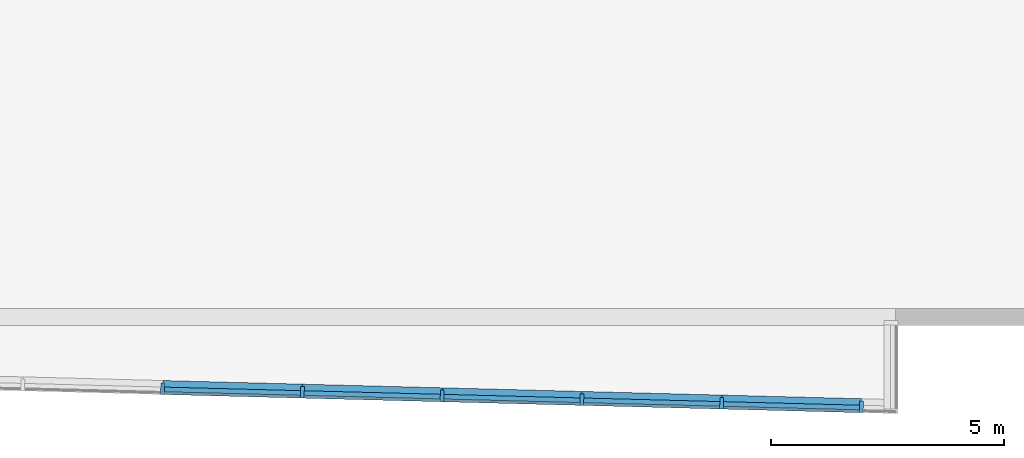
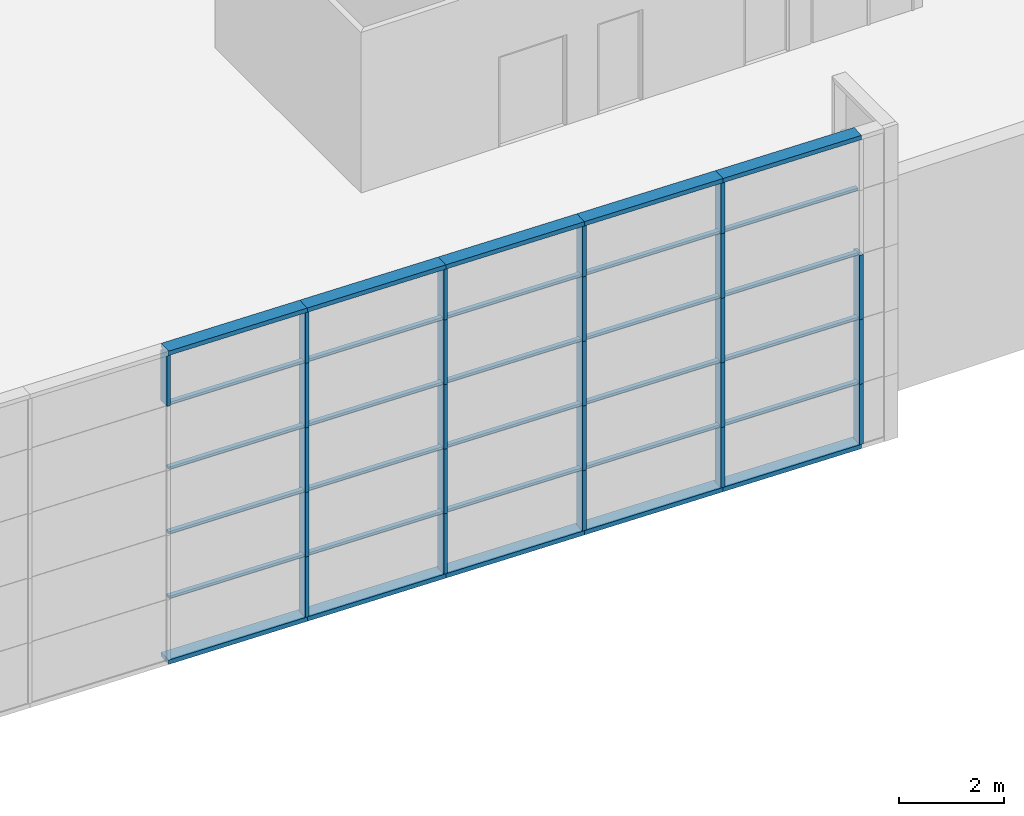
# One storey, part 6 of 27: 54 members, 1 element without a shape of its own.
"""IFC2X3 building model written with IfcOpenShell, lengths in metres."""

from ifc_helpers import new_model, entity, si_unit, converted_unit, money_unit, direction, frame, origin_with_axes, place, context, subcontext, project, spatial, polyline, outline, extrude, material, type_object, element, aggregate, save


model = new_model("IFC2X3")

# Units and contexts
model_context = context("Model", 3, precision=1e-05, world=origin_with_axes(), true_north=direction((0.0, 1.0)))
body_context = subcontext(model_context, "Body", "Model", "MODEL_VIEW")
ifc_project = project(units=[si_unit("LENGTHUNIT", "METRE"), si_unit("AREAUNIT", "SQUARE_METRE"), si_unit("VOLUMEUNIT", "CUBIC_METRE"), converted_unit("PLANEANGLEUNIT", "DEGREE", entity("IfcPlaneAngleMeasure", 0.0174532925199), si_unit("PLANEANGLEUNIT", "RADIAN"), dimensions=[0, 0, 0, 0, 0, 0, 0]), si_unit("SOLIDANGLEUNIT", "STERADIAN"), money_unit("EUR"), converted_unit("TIMEUNIT", "Year", entity("IfcTimeMeasure", 31556926.0), si_unit("TIMEUNIT", "SECOND"), dimensions=[0, 0, 0, 0, 0, 0, 0]), si_unit("MASSUNIT", "GRAM"), si_unit("THERMODYNAMICTEMPERATUREUNIT", "DEGREE_CELSIUS"), si_unit("LUMINOUSINTENSITYUNIT", "LUMEN")], contexts=[model_context])

# Site, building, storey
site_placement = place(None, origin_with_axes())
site = spatial("IfcSite", under=ifc_project, at=site_placement, Name="Undefined", CompositionType="ELEMENT")
building_placement = place(site_placement, origin_with_axes())
building = spatial("IfcBuilding", under=site, at=building_placement, Name="Undefined", CompositionType="ELEMENT")
storey_placement = place(building_placement, frame((0.0, 0.0, 5.4), z_axis=(0.0, 0.0, 1.0), x_axis=(1.0, 0.0, 0.0)))
storey = spatial("IfcBuildingStorey", under=building, at=storey_placement, Name="R+1", CompositionType="ELEMENT", Elevation=5.4)

# Curtain wall, members
curtain_wall_type = type_object("IfcCurtainWallType", Name="Type de mur-rideau", PredefinedType="NOTDEFINED")
curtain_wall_placement = place(storey_placement, frame((10.9994920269, -1.13484133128, -0.55), z_axis=(0.0, 0.0, 1.0), x_axis=(1.0, 0.0, 0.0)))
curtain_wall = element("IfcCurtainWall", 1, at=curtain_wall_placement, inside=storey, type_object=curtain_wall_type, Name="CurtainWall_01", ObjectType="CURTAIN WALL")
ifc_material = material(Name="25 % 359672764")
member_type_1 = type_object("IfcMemberType", Name="Cadre 100 x 300", PredefinedType="NOTDEFINED")
member_1_placement = place(curtain_wall_placement, frame((25.4913649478, -0.663560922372, 0.0), z_axis=(0.999661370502, -0.0260219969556, 0.0), x_axis=(0.0, 0.0, 1.0)))
member_1 = element("IfcMember", 2, at=member_1_placement, type_object=member_type_1, material=ifc_material, Name="Frame-Bnd-565", context=body_context, shape_type="SweptSolid", body=[
    extrude(outline(polyline([(-0.25, -0.1), (0.05, -0.1), (0.05, 0.0), (-0.25, 0.0), (-0.25, -0.1)])), frame((0.0, 0.0, 0.0), z_axis=(0.0, 0.0, 1.0), x_axis=(0.0, 1.0, 0.0)), (0.0, 0.0, 1.0), 3.0),
])
member_2_placement = place(curtain_wall_placement, frame((28.4903490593, -0.741626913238, 0.0), z_axis=(0.999661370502, -0.0260219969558, 0.0), x_axis=(0.0, 0.0, 1.0)))
member_2 = element("IfcMember", 3, at=member_2_placement, type_object=member_type_1, material=ifc_material, Name="Frame-Bnd-565", context=body_context, shape_type="SweptSolid", body=[
    extrude(outline(polyline([(-0.25, -0.1), (0.05, -0.1), (0.05, 0.0), (-0.25, 0.0), (-0.25, -0.1)])), frame((0.0, 0.0, 0.0), z_axis=(0.0, 0.0, 1.0), x_axis=(0.0, 1.0, 0.0)), (0.0, 0.0, 1.0), 3.0),
])
member_3_placement = place(curtain_wall_placement, frame((31.4893331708, -0.819692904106, 0.0), z_axis=(0.999661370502, -0.0260219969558, 0.0), x_axis=(0.0, 0.0, 1.0)))
member_3 = element("IfcMember", 4, at=member_3_placement, type_object=member_type_1, material=ifc_material, Name="Frame-Bnd-565", context=body_context, shape_type="SweptSolid", body=[
    extrude(outline(polyline([(-0.25, -0.1), (0.05, -0.1), (0.05, 0.0), (-0.25, 0.0), (-0.25, -0.1)])), frame((0.0, 0.0, 0.0), z_axis=(0.0, 0.0, 1.0), x_axis=(0.0, 1.0, 0.0)), (0.0, 0.0, 1.0), 3.0),
])
member_4_placement = place(curtain_wall_placement, frame((34.4883172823, -0.897758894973, 0.0), z_axis=(0.999661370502, -0.0260219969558, 0.0), x_axis=(0.0, 0.0, 1.0)))
member_4 = element("IfcMember", 5, at=member_4_placement, type_object=member_type_1, material=ifc_material, Name="Frame-Bnd-565", context=body_context, shape_type="SweptSolid", body=[
    extrude(outline(polyline([(-0.25, -0.1), (0.05, -0.1), (0.05, 0.0), (-0.25, 0.0), (-0.25, -0.1)])), frame((0.0, 0.0, 0.0), z_axis=(0.0, 0.0, 1.0), x_axis=(0.0, 1.0, 0.0)), (0.0, 0.0, 1.0), 3.0),
])
member_5_placement = place(curtain_wall_placement, frame((37.4873013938, -0.97582488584, 0.0), z_axis=(0.999661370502, -0.0260219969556, 0.0), x_axis=(0.0, 0.0, 1.0)))
member_5 = element("IfcMember", 6, at=member_5_placement, type_object=member_type_1, material=ifc_material, Name="Frame-Bnd-565", context=body_context, shape_type="SweptSolid", body=[
    extrude(outline(polyline([(-0.25, -0.1), (0.05, -0.1), (0.05, 0.0), (-0.25, 0.0), (-0.25, -0.1)])), frame((0.0, 0.0, 0.0), z_axis=(0.0, 0.0, 1.0), x_axis=(0.0, 1.0, 0.0)), (0.0, 0.0, 1.0), 3.0),
])
member_6_placement = place(curtain_wall_placement, frame((28.4903490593, -0.741626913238, 7.27506830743), z_axis=(-0.999661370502, 0.0260219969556, 0.0), x_axis=(0.0, 0.0, -1.0)))
member_6 = element("IfcMember", 7, at=member_6_placement, type_object=member_type_1, material=ifc_material, Name="Frame-Bnd-857", context=body_context, shape_type="SweptSolid", body=[
    extrude(outline(polyline([(0.25, 0.1), (-0.05, 0.1), (-0.05, 0.0), (0.25, 0.0), (0.25, 0.1)])), frame((0.0, 0.0, 0.0), z_axis=(0.0, 0.0, 1.0), x_axis=(0.0, -1.0, 0.0)), (0.0, 0.0, 1.0), 3.0),
])
member_7_placement = place(curtain_wall_placement, frame((31.4893331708, -0.819692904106, 7.27506830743), z_axis=(-0.999661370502, 0.0260219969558, 0.0), x_axis=(0.0, 0.0, -1.0)))
member_7 = element("IfcMember", 8, at=member_7_placement, type_object=member_type_1, material=ifc_material, Name="Frame-Bnd-858", context=body_context, shape_type="SweptSolid", body=[
    extrude(outline(polyline([(0.25, 0.1), (-0.05, 0.1), (-0.05, 0.0), (0.25, 0.0), (0.25, 0.1)])), frame((0.0, 0.0, 0.0), z_axis=(0.0, 0.0, 1.0), x_axis=(0.0, -1.0, 0.0)), (0.0, 0.0, 1.0), 3.0),
])
member_8_placement = place(curtain_wall_placement, frame((34.4883172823, -0.897758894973, 7.27506830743), z_axis=(-0.999661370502, 0.0260219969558, 0.0), x_axis=(0.0, 0.0, -1.0)))
member_8 = element("IfcMember", 9, at=member_8_placement, type_object=member_type_1, material=ifc_material, Name="Frame-Bnd-859", context=body_context, shape_type="SweptSolid", body=[
    extrude(outline(polyline([(0.25, 0.1), (-0.05, 0.1), (-0.05, 0.0), (0.25, 0.0), (0.25, 0.1)])), frame((0.0, 0.0, 0.0), z_axis=(0.0, 0.0, 1.0), x_axis=(0.0, -1.0, 0.0)), (0.0, 0.0, 1.0), 3.0),
])
member_9_placement = place(curtain_wall_placement, frame((37.4873013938, -0.97582488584, 7.27506830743), z_axis=(-0.999661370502, 0.0260219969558, 0.0), x_axis=(0.0, 0.0, -1.0)))
member_9 = element("IfcMember", 10, at=member_9_placement, type_object=member_type_1, material=ifc_material, Name="Frame-Bnd-860", context=body_context, shape_type="SweptSolid", body=[
    extrude(outline(polyline([(0.25, 0.1), (-0.05, 0.1), (-0.05, 0.0), (0.25, 0.0), (0.25, 0.1)])), frame((0.0, 0.0, 0.0), z_axis=(0.0, 0.0, 1.0), x_axis=(0.0, -1.0, 0.0)), (0.0, 0.0, 1.0), 3.0),
])
member_10_placement = place(curtain_wall_placement, frame((40.4862855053, -1.05389087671, 7.27506830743), z_axis=(-0.999661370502, 0.0260219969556, 0.0), x_axis=(0.0, 0.0, -1.0)))
member_10 = element("IfcMember", 11, at=member_10_placement, type_object=member_type_1, material=ifc_material, Name="Frame-Bnd-861", context=body_context, shape_type="SweptSolid", body=[
    extrude(outline(polyline([(0.25, 0.1), (-0.05, 0.1), (-0.05, 0.0), (0.25, 0.0), (0.25, 0.1)])), frame((0.0, 0.0, 0.0), z_axis=(0.0, 0.0, 1.0), x_axis=(0.0, -1.0, 0.0)), (0.0, 0.0, 1.0), 3.0),
])
member_type_2 = type_object("IfcMemberType", Name="Montant 80 x 250", PredefinedType="NOTDEFINED")
member_11_placement = place(curtain_wall_placement, frame((28.4903490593, -0.741626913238, 0.0), z_axis=(0.0, 0.0, 1.0), x_axis=(-0.999661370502, 0.0260219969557, 0.0)))
member_11 = element("IfcMember", 12, at=member_11_placement, type_object=member_type_2, material=ifc_material, Name="Frame-Mll-209", context=body_context, shape_type="SweptSolid", body=[
    extrude(outline(polyline([(-0.0347820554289, 0.200973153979), (-0.0412875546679, -0.0489421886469), (0.0386853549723, -0.0510239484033), (0.0451908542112, 0.198891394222), (-0.0347820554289, 0.200973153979)])), frame((0.0, 0.0, 0.1), z_axis=(0.0, 0.0, 1.0), x_axis=(-0.999661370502, -0.0260219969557, 0.0)), (0.0, 0.0, 1.0), 1.4),
])
member_12_placement = place(curtain_wall_placement, frame((31.4893331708, -0.819692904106, 0.0), z_axis=(0.0, 0.0, 1.0), x_axis=(-0.999661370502, 0.0260219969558, 0.0)))
member_12 = element("IfcMember", 13, at=member_12_placement, type_object=member_type_2, material=ifc_material, Name="Frame-Mll-209", context=body_context, shape_type="SweptSolid", body=[
    extrude(outline(polyline([(-0.0347820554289, 0.200973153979), (-0.0412875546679, -0.0489421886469), (0.0386853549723, -0.0510239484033), (0.0451908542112, 0.198891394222), (-0.0347820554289, 0.200973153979)])), frame((0.0, 0.0, 0.1), z_axis=(0.0, 0.0, 1.0), x_axis=(-0.999661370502, -0.0260219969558, 0.0)), (0.0, 0.0, 1.0), 1.4),
])
member_13_placement = place(curtain_wall_placement, frame((34.4883172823, -0.897758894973, 0.0), z_axis=(0.0, 0.0, 1.0), x_axis=(-0.999661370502, 0.0260219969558, 0.0)))
member_13 = element("IfcMember", 14, at=member_13_placement, type_object=member_type_2, material=ifc_material, Name="Frame-Mll-209", context=body_context, shape_type="SweptSolid", body=[
    extrude(outline(polyline([(-0.0347820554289, 0.200973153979), (-0.0412875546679, -0.0489421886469), (0.0386853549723, -0.0510239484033), (0.0451908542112, 0.198891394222), (-0.0347820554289, 0.200973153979)])), frame((0.0, 0.0, 0.1), z_axis=(0.0, 0.0, 1.0), x_axis=(-0.999661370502, -0.0260219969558, 0.0)), (0.0, 0.0, 1.0), 1.4),
])
member_14_placement = place(curtain_wall_placement, frame((37.4873013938, -0.97582488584, 0.0), z_axis=(0.0, 0.0, 1.0), x_axis=(-0.999661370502, 0.0260219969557, 0.0)))
member_14 = element("IfcMember", 15, at=member_14_placement, type_object=member_type_2, material=ifc_material, Name="Frame-Mll-209", context=body_context, shape_type="SweptSolid", body=[
    extrude(outline(polyline([(-0.0347820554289, 0.200973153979), (-0.0412875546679, -0.0489421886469), (0.0386853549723, -0.0510239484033), (0.0451908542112, 0.198891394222), (-0.0347820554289, 0.200973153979)])), frame((0.0, 0.0, 0.1), z_axis=(0.0, 0.0, 1.0), x_axis=(-0.999661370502, -0.0260219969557, 0.0)), (0.0, 0.0, 1.0), 1.4),
])
member_15_placement = place(curtain_wall_placement, frame((40.4862855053, -1.05389087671, 0.0), z_axis=(0.0, 0.0, 1.0), x_axis=(-0.999661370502, 0.0260219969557, 0.0)))
member_15 = element("IfcMember", 16, at=member_15_placement, type_object=member_type_2, material=ifc_material, Name="Frame-Mll-209", context=body_context, shape_type="SweptSolid", body=[
    extrude(outline(polyline([(-0.0347820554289, 0.200973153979), (-0.0412875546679, -0.0489421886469), (0.0386853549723, -0.0510239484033), (0.0451908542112, 0.198891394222), (-0.0347820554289, 0.200973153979)])), frame((0.0, 0.0, 0.1), z_axis=(0.0, 0.0, 1.0), x_axis=(-0.999661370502, -0.0260219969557, 0.0)), (0.0, 0.0, 1.0), 1.4),
])
member_16_placement = place(curtain_wall_placement, frame((28.4903490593, -0.741626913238, 1.5), z_axis=(0.0, 0.0, 1.0), x_axis=(-0.999661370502, 0.0260219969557, 0.0)))
member_16 = element("IfcMember", 17, at=member_16_placement, type_object=member_type_2, material=ifc_material, Name="Frame-Mll-209", context=body_context, shape_type="SweptSolid", body=[
    extrude(outline(polyline([(-0.0347820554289, 0.200973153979), (-0.0412875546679, -0.0489421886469), (0.0386853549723, -0.0510239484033), (0.0451908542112, 0.198891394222), (-0.0347820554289, 0.200973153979)])), frame((0.0, 0.0, 0.0), z_axis=(0.0, 0.0, 1.0), x_axis=(-0.999661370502, -0.0260219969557, 0.0)), (0.0, 0.0, 1.0), 1.5),
])
member_17_placement = place(curtain_wall_placement, frame((31.4893331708, -0.819692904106, 1.5), z_axis=(0.0, 0.0, 1.0), x_axis=(-0.999661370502, 0.0260219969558, 0.0)))
member_17 = element("IfcMember", 18, at=member_17_placement, type_object=member_type_2, material=ifc_material, Name="Frame-Mll-209", context=body_context, shape_type="SweptSolid", body=[
    extrude(outline(polyline([(-0.0347820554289, 0.200973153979), (-0.0412875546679, -0.0489421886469), (0.0386853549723, -0.0510239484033), (0.0451908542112, 0.198891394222), (-0.0347820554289, 0.200973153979)])), frame((0.0, 0.0, 0.0), z_axis=(0.0, 0.0, 1.0), x_axis=(-0.999661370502, -0.0260219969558, 0.0)), (0.0, 0.0, 1.0), 1.5),
])
member_18_placement = place(curtain_wall_placement, frame((34.4883172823, -0.897758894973, 1.5), z_axis=(0.0, 0.0, 1.0), x_axis=(-0.999661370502, 0.0260219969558, 0.0)))
member_18 = element("IfcMember", 19, at=member_18_placement, type_object=member_type_2, material=ifc_material, Name="Frame-Mll-209", context=body_context, shape_type="SweptSolid", body=[
    extrude(outline(polyline([(-0.0347820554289, 0.200973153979), (-0.0412875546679, -0.0489421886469), (0.0386853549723, -0.0510239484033), (0.0451908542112, 0.198891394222), (-0.0347820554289, 0.200973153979)])), frame((0.0, 0.0, 0.0), z_axis=(0.0, 0.0, 1.0), x_axis=(-0.999661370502, -0.0260219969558, 0.0)), (0.0, 0.0, 1.0), 1.5),
])
member_19_placement = place(curtain_wall_placement, frame((37.4873013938, -0.97582488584, 1.5), z_axis=(0.0, 0.0, 1.0), x_axis=(-0.999661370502, 0.0260219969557, 0.0)))
member_19 = element("IfcMember", 20, at=member_19_placement, type_object=member_type_2, material=ifc_material, Name="Frame-Mll-209", context=body_context, shape_type="SweptSolid", body=[
    extrude(outline(polyline([(-0.0347820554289, 0.200973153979), (-0.0412875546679, -0.0489421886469), (0.0386853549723, -0.0510239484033), (0.0451908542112, 0.198891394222), (-0.0347820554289, 0.200973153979)])), frame((0.0, 0.0, 0.0), z_axis=(0.0, 0.0, 1.0), x_axis=(-0.999661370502, -0.0260219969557, 0.0)), (0.0, 0.0, 1.0), 1.5),
])
member_20_placement = place(curtain_wall_placement, frame((40.4862855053, -1.05389087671, 1.5), z_axis=(0.0, 0.0, 1.0), x_axis=(-0.999661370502, 0.0260219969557, 0.0)))
member_20 = element("IfcMember", 21, at=member_20_placement, type_object=member_type_2, material=ifc_material, Name="Frame-Mll-209", context=body_context, shape_type="SweptSolid", body=[
    extrude(outline(polyline([(-0.0347820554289, 0.200973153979), (-0.0412875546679, -0.0489421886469), (0.0386853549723, -0.0510239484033), (0.0451908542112, 0.198891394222), (-0.0347820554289, 0.200973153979)])), frame((0.0, 0.0, 0.0), z_axis=(0.0, 0.0, 1.0), x_axis=(-0.999661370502, -0.0260219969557, 0.0)), (0.0, 0.0, 1.0), 1.5),
])
member_21_placement = place(curtain_wall_placement, frame((28.4903490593, -0.741626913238, 3.0), z_axis=(0.0, 0.0, 1.0), x_axis=(-0.999661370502, 0.0260219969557, 0.0)))
member_21 = element("IfcMember", 22, at=member_21_placement, type_object=member_type_2, material=ifc_material, Name="Frame-Mll-209", context=body_context, shape_type="SweptSolid", body=[
    extrude(outline(polyline([(-0.0347820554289, 0.200973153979), (-0.0412875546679, -0.0489421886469), (0.0386853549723, -0.0510239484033), (0.0451908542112, 0.198891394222), (-0.0347820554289, 0.200973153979)])), frame((0.0, 0.0, 0.0), z_axis=(0.0, 0.0, 1.0), x_axis=(-0.999661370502, -0.0260219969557, 0.0)), (0.0, 0.0, 1.0), 1.5),
])
member_22_placement = place(curtain_wall_placement, frame((31.4893331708, -0.819692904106, 3.0), z_axis=(0.0, 0.0, 1.0), x_axis=(-0.999661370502, 0.0260219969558, 0.0)))
member_22 = element("IfcMember", 23, at=member_22_placement, type_object=member_type_2, material=ifc_material, Name="Frame-Mll-209", context=body_context, shape_type="SweptSolid", body=[
    extrude(outline(polyline([(-0.0347820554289, 0.200973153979), (-0.0412875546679, -0.0489421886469), (0.0386853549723, -0.0510239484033), (0.0451908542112, 0.198891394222), (-0.0347820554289, 0.200973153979)])), frame((0.0, 0.0, 0.0), z_axis=(0.0, 0.0, 1.0), x_axis=(-0.999661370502, -0.0260219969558, 0.0)), (0.0, 0.0, 1.0), 1.5),
])
member_23_placement = place(curtain_wall_placement, frame((34.4883172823, -0.897758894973, 3.0), z_axis=(0.0, 0.0, 1.0), x_axis=(-0.999661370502, 0.0260219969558, 0.0)))
member_23 = element("IfcMember", 24, at=member_23_placement, type_object=member_type_2, material=ifc_material, Name="Frame-Mll-209", context=body_context, shape_type="SweptSolid", body=[
    extrude(outline(polyline([(-0.0347820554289, 0.200973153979), (-0.0412875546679, -0.0489421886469), (0.0386853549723, -0.0510239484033), (0.0451908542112, 0.198891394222), (-0.0347820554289, 0.200973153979)])), frame((0.0, 0.0, 0.0), z_axis=(0.0, 0.0, 1.0), x_axis=(-0.999661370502, -0.0260219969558, 0.0)), (0.0, 0.0, 1.0), 1.5),
])
member_24_placement = place(curtain_wall_placement, frame((37.4873013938, -0.97582488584, 3.0), z_axis=(0.0, 0.0, 1.0), x_axis=(-0.999661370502, 0.0260219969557, 0.0)))
member_24 = element("IfcMember", 25, at=member_24_placement, type_object=member_type_2, material=ifc_material, Name="Frame-Mll-209", context=body_context, shape_type="SweptSolid", body=[
    extrude(outline(polyline([(-0.0347820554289, 0.200973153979), (-0.0412875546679, -0.0489421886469), (0.0386853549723, -0.0510239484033), (0.0451908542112, 0.198891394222), (-0.0347820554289, 0.200973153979)])), frame((0.0, 0.0, 0.0), z_axis=(0.0, 0.0, 1.0), x_axis=(-0.999661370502, -0.0260219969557, 0.0)), (0.0, 0.0, 1.0), 1.5),
])
member_25_placement = place(curtain_wall_placement, frame((40.4862855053, -1.05389087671, 3.0), z_axis=(0.0, 0.0, 1.0), x_axis=(-0.999661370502, 0.0260219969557, 0.0)))
member_25 = element("IfcMember", 26, at=member_25_placement, type_object=member_type_2, material=ifc_material, Name="Frame-Mll-209", context=body_context, shape_type="SweptSolid", body=[
    extrude(outline(polyline([(-0.0347820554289, 0.200973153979), (-0.0412875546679, -0.0489421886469), (0.0386853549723, -0.0510239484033), (0.0451908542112, 0.198891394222), (-0.0347820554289, 0.200973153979)])), frame((0.0, 0.0, 0.0), z_axis=(0.0, 0.0, 1.0), x_axis=(-0.999661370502, -0.0260219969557, 0.0)), (0.0, 0.0, 1.0), 1.5),
])
member_26_placement = place(curtain_wall_placement, frame((28.4903490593, -0.741626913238, 4.5), z_axis=(0.0, 0.0, 1.0), x_axis=(-0.999661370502, 0.0260219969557, 0.0)))
member_26 = element("IfcMember", 27, at=member_26_placement, type_object=member_type_2, material=ifc_material, Name="Frame-Mll-209", context=body_context, shape_type="SweptSolid", body=[
    extrude(outline(polyline([(-0.0347820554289, 0.200973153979), (-0.0412875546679, -0.0489421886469), (0.0386853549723, -0.0510239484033), (0.0451908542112, 0.198891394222), (-0.0347820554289, 0.200973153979)])), frame((0.0, 0.0, 0.0), z_axis=(0.0, 0.0, 1.0), x_axis=(-0.999661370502, -0.0260219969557, 0.0)), (0.0, 0.0, 1.0), 1.5),
])
member_27_placement = place(curtain_wall_placement, frame((31.4893331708, -0.819692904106, 4.5), z_axis=(0.0, 0.0, 1.0), x_axis=(-0.999661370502, 0.0260219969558, 0.0)))
member_27 = element("IfcMember", 28, at=member_27_placement, type_object=member_type_2, material=ifc_material, Name="Frame-Mll-209", context=body_context, shape_type="SweptSolid", body=[
    extrude(outline(polyline([(-0.0347820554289, 0.200973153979), (-0.0412875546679, -0.0489421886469), (0.0386853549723, -0.0510239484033), (0.0451908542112, 0.198891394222), (-0.0347820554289, 0.200973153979)])), frame((0.0, 0.0, 0.0), z_axis=(0.0, 0.0, 1.0), x_axis=(-0.999661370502, -0.0260219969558, 0.0)), (0.0, 0.0, 1.0), 1.5),
])
member_28_placement = place(curtain_wall_placement, frame((34.4883172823, -0.897758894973, 4.5), z_axis=(0.0, 0.0, 1.0), x_axis=(-0.999661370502, 0.0260219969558, 0.0)))
member_28 = element("IfcMember", 29, at=member_28_placement, type_object=member_type_2, material=ifc_material, Name="Frame-Mll-209", context=body_context, shape_type="SweptSolid", body=[
    extrude(outline(polyline([(-0.0347820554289, 0.200973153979), (-0.0412875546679, -0.0489421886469), (0.0386853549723, -0.0510239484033), (0.0451908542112, 0.198891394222), (-0.0347820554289, 0.200973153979)])), frame((0.0, 0.0, 0.0), z_axis=(0.0, 0.0, 1.0), x_axis=(-0.999661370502, -0.0260219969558, 0.0)), (0.0, 0.0, 1.0), 1.5),
])
member_29_placement = place(curtain_wall_placement, frame((37.4873013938, -0.97582488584, 4.5), z_axis=(0.0, 0.0, 1.0), x_axis=(-0.999661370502, 0.0260219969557, 0.0)))
member_29 = element("IfcMember", 30, at=member_29_placement, type_object=member_type_2, material=ifc_material, Name="Frame-Mll-209", context=body_context, shape_type="SweptSolid", body=[
    extrude(outline(polyline([(-0.0347820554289, 0.200973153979), (-0.0412875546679, -0.0489421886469), (0.0386853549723, -0.0510239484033), (0.0451908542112, 0.198891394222), (-0.0347820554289, 0.200973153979)])), frame((0.0, 0.0, 0.0), z_axis=(0.0, 0.0, 1.0), x_axis=(-0.999661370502, -0.0260219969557, 0.0)), (0.0, 0.0, 1.0), 1.5),
])
member_30_placement = place(curtain_wall_placement, frame((25.4913649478, -0.663560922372, 6.0), z_axis=(0.0, 0.0, 1.0), x_axis=(-0.999661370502, 0.0260219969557, 0.0)))
member_30 = element("IfcMember", 31, at=member_30_placement, type_object=member_type_2, material=ifc_material, Name="Frame-Mll-209", context=body_context, shape_type="SweptSolid", body=[
    extrude(outline(polyline([(-0.0347820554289, 0.200973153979), (-0.0412875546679, -0.0489421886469), (0.0386853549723, -0.0510239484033), (0.0451908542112, 0.198891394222), (-0.0347820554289, 0.200973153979)])), frame((0.0, 0.0, 0.0), z_axis=(0.0, 0.0, 1.0), x_axis=(-0.999661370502, -0.0260219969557, 0.0)), (0.0, 0.0, 1.0), 1.17506830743),
])
member_31_placement = place(curtain_wall_placement, frame((28.4903490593, -0.741626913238, 6.0), z_axis=(0.0, 0.0, 1.0), x_axis=(-0.999661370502, 0.0260219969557, 0.0)))
member_31 = element("IfcMember", 32, at=member_31_placement, type_object=member_type_2, material=ifc_material, Name="Frame-Mll-209", context=body_context, shape_type="SweptSolid", body=[
    extrude(outline(polyline([(-0.0347820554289, 0.200973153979), (-0.0412875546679, -0.0489421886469), (0.0386853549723, -0.0510239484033), (0.0451908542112, 0.198891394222), (-0.0347820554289, 0.200973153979)])), frame((0.0, 0.0, 0.0), z_axis=(0.0, 0.0, 1.0), x_axis=(-0.999661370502, -0.0260219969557, 0.0)), (0.0, 0.0, 1.0), 1.17506830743),
])
member_32_placement = place(curtain_wall_placement, frame((31.4893331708, -0.819692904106, 6.0), z_axis=(0.0, 0.0, 1.0), x_axis=(-0.999661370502, 0.0260219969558, 0.0)))
member_32 = element("IfcMember", 33, at=member_32_placement, type_object=member_type_2, material=ifc_material, Name="Frame-Mll-209", context=body_context, shape_type="SweptSolid", body=[
    extrude(outline(polyline([(-0.0347820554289, 0.200973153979), (-0.0412875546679, -0.0489421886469), (0.0386853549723, -0.0510239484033), (0.0451908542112, 0.198891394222), (-0.0347820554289, 0.200973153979)])), frame((0.0, 0.0, 0.0), z_axis=(0.0, 0.0, 1.0), x_axis=(-0.999661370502, -0.0260219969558, 0.0)), (0.0, 0.0, 1.0), 1.17506830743),
])
member_33_placement = place(curtain_wall_placement, frame((34.4883172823, -0.897758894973, 6.0), z_axis=(0.0, 0.0, 1.0), x_axis=(-0.999661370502, 0.0260219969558, 0.0)))
member_33 = element("IfcMember", 34, at=member_33_placement, type_object=member_type_2, material=ifc_material, Name="Frame-Mll-209", context=body_context, shape_type="SweptSolid", body=[
    extrude(outline(polyline([(-0.0347820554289, 0.200973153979), (-0.0412875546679, -0.0489421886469), (0.0386853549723, -0.0510239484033), (0.0451908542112, 0.198891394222), (-0.0347820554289, 0.200973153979)])), frame((0.0, 0.0, 0.0), z_axis=(0.0, 0.0, 1.0), x_axis=(-0.999661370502, -0.0260219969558, 0.0)), (0.0, 0.0, 1.0), 1.17506830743),
])
member_34_placement = place(curtain_wall_placement, frame((37.4873013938, -0.97582488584, 6.0), z_axis=(0.0, 0.0, 1.0), x_axis=(-0.999661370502, 0.0260219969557, 0.0)))
member_34 = element("IfcMember", 35, at=member_34_placement, type_object=member_type_2, material=ifc_material, Name="Frame-Mll-209", context=body_context, shape_type="SweptSolid", body=[
    extrude(outline(polyline([(-0.0347820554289, 0.200973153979), (-0.0412875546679, -0.0489421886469), (0.0386853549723, -0.0510239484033), (0.0451908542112, 0.198891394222), (-0.0347820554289, 0.200973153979)])), frame((0.0, 0.0, 0.0), z_axis=(0.0, 0.0, 1.0), x_axis=(-0.999661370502, -0.0260219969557, 0.0)), (0.0, 0.0, 1.0), 1.17506830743),
])
member_type_3 = type_object("IfcMemberType", Name="Traverse 60 x 100", PredefinedType="NOTDEFINED")
member_35_placement = place(curtain_wall_placement, frame((25.4913649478, -0.663560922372, 1.5), z_axis=(0.999661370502, -0.0260219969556, 0.0), x_axis=(0.0, 0.0, 1.0)))
member_35 = element("IfcMember", 36, at=member_35_placement, type_object=member_type_3, material=ifc_material, Name="Frame-Trs-501", context=body_context, shape_type="SweptSolid", body=[
    extrude(outline(polyline([(-0.11, -0.03), (-0.01, -0.03), (-0.01, 0.03), (-0.11, 0.03), (-0.11, -0.03)])), frame((0.0, 0.0, 0.04), z_axis=(0.0, 0.0, 1.0), x_axis=(0.0, 1.0, 0.0)), (0.0, 0.0, 1.0), 2.92),
])
member_36_placement = place(curtain_wall_placement, frame((28.4903490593, -0.741626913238, 1.5), z_axis=(0.999661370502, -0.0260219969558, 0.0), x_axis=(0.0, 0.0, 1.0)))
member_36 = element("IfcMember", 37, at=member_36_placement, type_object=member_type_3, material=ifc_material, Name="Frame-Trs-501", context=body_context, shape_type="SweptSolid", body=[
    extrude(outline(polyline([(-0.11, -0.03), (-0.01, -0.03), (-0.01, 0.03), (-0.11, 0.03), (-0.11, -0.03)])), frame((0.0, 0.0, 0.04), z_axis=(0.0, 0.0, 1.0), x_axis=(0.0, 1.0, 0.0)), (0.0, 0.0, 1.0), 2.92),
])
member_37_placement = place(curtain_wall_placement, frame((31.4893331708, -0.819692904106, 1.5), z_axis=(0.999661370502, -0.0260219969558, 0.0), x_axis=(0.0, 0.0, 1.0)))
member_37 = element("IfcMember", 38, at=member_37_placement, type_object=member_type_3, material=ifc_material, Name="Frame-Trs-501", context=body_context, shape_type="SweptSolid", body=[
    extrude(outline(polyline([(-0.11, -0.03), (-0.01, -0.03), (-0.01, 0.03), (-0.11, 0.03), (-0.11, -0.03)])), frame((0.0, 0.0, 0.04), z_axis=(0.0, 0.0, 1.0), x_axis=(0.0, 1.0, 0.0)), (0.0, 0.0, 1.0), 2.92),
])
member_38_placement = place(curtain_wall_placement, frame((34.4883172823, -0.897758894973, 1.5), z_axis=(0.999661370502, -0.0260219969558, 0.0), x_axis=(0.0, 0.0, 1.0)))
member_38 = element("IfcMember", 39, at=member_38_placement, type_object=member_type_3, material=ifc_material, Name="Frame-Trs-501", context=body_context, shape_type="SweptSolid", body=[
    extrude(outline(polyline([(-0.11, -0.03), (-0.01, -0.03), (-0.01, 0.03), (-0.11, 0.03), (-0.11, -0.03)])), frame((0.0, 0.0, 0.04), z_axis=(0.0, 0.0, 1.0), x_axis=(0.0, 1.0, 0.0)), (0.0, 0.0, 1.0), 2.92),
])
member_39_placement = place(curtain_wall_placement, frame((37.4873013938, -0.97582488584, 1.5), z_axis=(0.999661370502, -0.0260219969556, 0.0), x_axis=(0.0, 0.0, 1.0)))
member_39 = element("IfcMember", 40, at=member_39_placement, type_object=member_type_3, material=ifc_material, Name="Frame-Trs-501", context=body_context, shape_type="SweptSolid", body=[
    extrude(outline(polyline([(-0.11, -0.03), (-0.01, -0.03), (-0.01, 0.03), (-0.11, 0.03), (-0.11, -0.03)])), frame((0.0, 0.0, 0.04), z_axis=(0.0, 0.0, 1.0), x_axis=(0.0, 1.0, 0.0)), (0.0, 0.0, 1.0), 2.92),
])
member_40_placement = place(curtain_wall_placement, frame((25.4913649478, -0.663560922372, 3.0), z_axis=(0.999661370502, -0.0260219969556, 0.0), x_axis=(0.0, 0.0, 1.0)))
member_40 = element("IfcMember", 41, at=member_40_placement, type_object=member_type_3, material=ifc_material, Name="Frame-Trs-501", context=body_context, shape_type="SweptSolid", body=[
    extrude(outline(polyline([(-0.11, -0.03), (-0.01, -0.03), (-0.01, 0.03), (-0.11, 0.03), (-0.11, -0.03)])), frame((0.0, 0.0, 0.04), z_axis=(0.0, 0.0, 1.0), x_axis=(0.0, 1.0, 0.0)), (0.0, 0.0, 1.0), 2.92),
])
member_41_placement = place(curtain_wall_placement, frame((28.4903490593, -0.741626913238, 3.0), z_axis=(0.999661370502, -0.0260219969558, 0.0), x_axis=(0.0, 0.0, 1.0)))
member_41 = element("IfcMember", 42, at=member_41_placement, type_object=member_type_3, material=ifc_material, Name="Frame-Trs-501", context=body_context, shape_type="SweptSolid", body=[
    extrude(outline(polyline([(-0.11, -0.03), (-0.01, -0.03), (-0.01, 0.03), (-0.11, 0.03), (-0.11, -0.03)])), frame((0.0, 0.0, 0.04), z_axis=(0.0, 0.0, 1.0), x_axis=(0.0, 1.0, 0.0)), (0.0, 0.0, 1.0), 2.92),
])
member_42_placement = place(curtain_wall_placement, frame((31.4893331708, -0.819692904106, 3.0), z_axis=(0.999661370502, -0.0260219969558, 0.0), x_axis=(0.0, 0.0, 1.0)))
member_42 = element("IfcMember", 43, at=member_42_placement, type_object=member_type_3, material=ifc_material, Name="Frame-Trs-501", context=body_context, shape_type="SweptSolid", body=[
    extrude(outline(polyline([(-0.11, -0.03), (-0.01, -0.03), (-0.01, 0.03), (-0.11, 0.03), (-0.11, -0.03)])), frame((0.0, 0.0, 0.04), z_axis=(0.0, 0.0, 1.0), x_axis=(0.0, 1.0, 0.0)), (0.0, 0.0, 1.0), 2.92),
])
member_43_placement = place(curtain_wall_placement, frame((34.4883172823, -0.897758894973, 3.0), z_axis=(0.999661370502, -0.0260219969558, 0.0), x_axis=(0.0, 0.0, 1.0)))
member_43 = element("IfcMember", 44, at=member_43_placement, type_object=member_type_3, material=ifc_material, Name="Frame-Trs-501", context=body_context, shape_type="SweptSolid", body=[
    extrude(outline(polyline([(-0.11, -0.03), (-0.01, -0.03), (-0.01, 0.03), (-0.11, 0.03), (-0.11, -0.03)])), frame((0.0, 0.0, 0.04), z_axis=(0.0, 0.0, 1.0), x_axis=(0.0, 1.0, 0.0)), (0.0, 0.0, 1.0), 2.92),
])
member_44_placement = place(curtain_wall_placement, frame((37.4873013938, -0.97582488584, 3.0), z_axis=(0.999661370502, -0.0260219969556, 0.0), x_axis=(0.0, 0.0, 1.0)))
member_44 = element("IfcMember", 45, at=member_44_placement, type_object=member_type_3, material=ifc_material, Name="Frame-Trs-501", context=body_context, shape_type="SweptSolid", body=[
    extrude(outline(polyline([(-0.11, -0.03), (-0.01, -0.03), (-0.01, 0.03), (-0.11, 0.03), (-0.11, -0.03)])), frame((0.0, 0.0, 0.04), z_axis=(0.0, 0.0, 1.0), x_axis=(0.0, 1.0, 0.0)), (0.0, 0.0, 1.0), 2.92),
])
member_45_placement = place(curtain_wall_placement, frame((25.4913649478, -0.663560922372, 4.5), z_axis=(0.999661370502, -0.0260219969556, 0.0), x_axis=(0.0, 0.0, 1.0)))
member_45 = element("IfcMember", 46, at=member_45_placement, type_object=member_type_3, material=ifc_material, Name="Frame-Trs-501", context=body_context, shape_type="SweptSolid", body=[
    extrude(outline(polyline([(-0.11, -0.03), (-0.01, -0.03), (-0.01, 0.03), (-0.11, 0.03), (-0.11, -0.03)])), frame((0.0, 0.0, 0.04), z_axis=(0.0, 0.0, 1.0), x_axis=(0.0, 1.0, 0.0)), (0.0, 0.0, 1.0), 2.92),
])
member_46_placement = place(curtain_wall_placement, frame((28.4903490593, -0.741626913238, 4.5), z_axis=(0.999661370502, -0.0260219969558, 0.0), x_axis=(0.0, 0.0, 1.0)))
member_46 = element("IfcMember", 47, at=member_46_placement, type_object=member_type_3, material=ifc_material, Name="Frame-Trs-501", context=body_context, shape_type="SweptSolid", body=[
    extrude(outline(polyline([(-0.11, -0.03), (-0.01, -0.03), (-0.01, 0.03), (-0.11, 0.03), (-0.11, -0.03)])), frame((0.0, 0.0, 0.04), z_axis=(0.0, 0.0, 1.0), x_axis=(0.0, 1.0, 0.0)), (0.0, 0.0, 1.0), 2.92),
])
member_47_placement = place(curtain_wall_placement, frame((31.4893331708, -0.819692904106, 4.5), z_axis=(0.999661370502, -0.0260219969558, 0.0), x_axis=(0.0, 0.0, 1.0)))
member_47 = element("IfcMember", 48, at=member_47_placement, type_object=member_type_3, material=ifc_material, Name="Frame-Trs-501", context=body_context, shape_type="SweptSolid", body=[
    extrude(outline(polyline([(-0.11, -0.03), (-0.01, -0.03), (-0.01, 0.03), (-0.11, 0.03), (-0.11, -0.03)])), frame((0.0, 0.0, 0.04), z_axis=(0.0, 0.0, 1.0), x_axis=(0.0, 1.0, 0.0)), (0.0, 0.0, 1.0), 2.92),
])
member_48_placement = place(curtain_wall_placement, frame((34.4883172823, -0.897758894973, 4.5), z_axis=(0.999661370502, -0.0260219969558, 0.0), x_axis=(0.0, 0.0, 1.0)))
member_48 = element("IfcMember", 49, at=member_48_placement, type_object=member_type_3, material=ifc_material, Name="Frame-Trs-501", context=body_context, shape_type="SweptSolid", body=[
    extrude(outline(polyline([(-0.11, -0.03), (-0.01, -0.03), (-0.01, 0.03), (-0.11, 0.03), (-0.11, -0.03)])), frame((0.0, 0.0, 0.04), z_axis=(0.0, 0.0, 1.0), x_axis=(0.0, 1.0, 0.0)), (0.0, 0.0, 1.0), 2.92),
])
member_49_placement = place(curtain_wall_placement, frame((37.4873013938, -0.97582488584, 4.5), z_axis=(0.999661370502, -0.0260219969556, 0.0), x_axis=(0.0, 0.0, 1.0)))
member_49 = element("IfcMember", 50, at=member_49_placement, type_object=member_type_3, material=ifc_material, Name="Frame-Trs-501", context=body_context, shape_type="SweptSolid", body=[
    extrude(outline(polyline([(-0.11, -0.03), (-0.01, -0.03), (-0.01, 0.03), (-0.11, 0.03), (-0.11, -0.03)])), frame((0.0, 0.0, 0.04), z_axis=(0.0, 0.0, 1.0), x_axis=(0.0, 1.0, 0.0)), (0.0, 0.0, 1.0), 2.92),
])
member_50_placement = place(curtain_wall_placement, frame((25.4913649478, -0.663560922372, 6.0), z_axis=(0.999661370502, -0.0260219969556, 0.0), x_axis=(0.0, 0.0, 1.0)))
member_50 = element("IfcMember", 51, at=member_50_placement, type_object=member_type_3, material=ifc_material, Name="Frame-Trs-501", context=body_context, shape_type="SweptSolid", body=[
    extrude(outline(polyline([(-0.11, -0.03), (-0.01, -0.03), (-0.01, 0.03), (-0.11, 0.03), (-0.11, -0.03)])), frame((0.0, 0.0, 0.04), z_axis=(0.0, 0.0, 1.0), x_axis=(0.0, 1.0, 0.0)), (0.0, 0.0, 1.0), 2.92),
])
member_51_placement = place(curtain_wall_placement, frame((28.4903490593, -0.741626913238, 6.0), z_axis=(0.999661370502, -0.0260219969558, 0.0), x_axis=(0.0, 0.0, 1.0)))
member_51 = element("IfcMember", 52, at=member_51_placement, type_object=member_type_3, material=ifc_material, Name="Frame-Trs-501", context=body_context, shape_type="SweptSolid", body=[
    extrude(outline(polyline([(-0.11, -0.03), (-0.01, -0.03), (-0.01, 0.03), (-0.11, 0.03), (-0.11, -0.03)])), frame((0.0, 0.0, 0.04), z_axis=(0.0, 0.0, 1.0), x_axis=(0.0, 1.0, 0.0)), (0.0, 0.0, 1.0), 2.92),
])
member_52_placement = place(curtain_wall_placement, frame((31.4893331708, -0.819692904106, 6.0), z_axis=(0.999661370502, -0.0260219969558, 0.0), x_axis=(0.0, 0.0, 1.0)))
member_52 = element("IfcMember", 53, at=member_52_placement, type_object=member_type_3, material=ifc_material, Name="Frame-Trs-501", context=body_context, shape_type="SweptSolid", body=[
    extrude(outline(polyline([(-0.11, -0.03), (-0.01, -0.03), (-0.01, 0.03), (-0.11, 0.03), (-0.11, -0.03)])), frame((0.0, 0.0, 0.04), z_axis=(0.0, 0.0, 1.0), x_axis=(0.0, 1.0, 0.0)), (0.0, 0.0, 1.0), 2.92),
])
member_53_placement = place(curtain_wall_placement, frame((34.4883172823, -0.897758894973, 6.0), z_axis=(0.999661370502, -0.0260219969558, 0.0), x_axis=(0.0, 0.0, 1.0)))
member_53 = element("IfcMember", 54, at=member_53_placement, type_object=member_type_3, material=ifc_material, Name="Frame-Trs-501", context=body_context, shape_type="SweptSolid", body=[
    extrude(outline(polyline([(-0.11, -0.03), (-0.01, -0.03), (-0.01, 0.03), (-0.11, 0.03), (-0.11, -0.03)])), frame((0.0, 0.0, 0.04), z_axis=(0.0, 0.0, 1.0), x_axis=(0.0, 1.0, 0.0)), (0.0, 0.0, 1.0), 2.92),
])
member_54_placement = place(curtain_wall_placement, frame((37.4873013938, -0.97582488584, 6.0), z_axis=(0.999661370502, -0.0260219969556, 0.0), x_axis=(0.0, 0.0, 1.0)))
member_54 = element("IfcMember", 55, at=member_54_placement, type_object=member_type_3, material=ifc_material, Name="Frame-Trs-501", context=body_context, shape_type="SweptSolid", body=[
    extrude(outline(polyline([(-0.11, -0.03), (-0.01, -0.03), (-0.01, 0.03), (-0.11, 0.03), (-0.11, -0.03)])), frame((0.0, 0.0, 0.04), z_axis=(0.0, 0.0, 1.0), x_axis=(0.0, 1.0, 0.0)), (0.0, 0.0, 1.0), 2.92),
])
aggregate(curtain_wall, [member_1, member_2, member_11, member_3, member_12, member_4, member_13, member_5, member_14, member_15, member_35, member_36, member_16, member_37, member_17, member_38, member_18, member_39, member_19, member_20, member_40, member_41, member_21, member_42, member_22, member_43, member_23, member_44, member_24, member_25, member_45, member_46, member_26, member_47, member_27, member_48, member_28, member_49, member_29, member_50, member_51, member_52, member_53, member_54, member_30, member_31, member_32, member_33, member_34, member_6, member_7, member_8, member_9, member_10])

save(model, "model.ifc")
